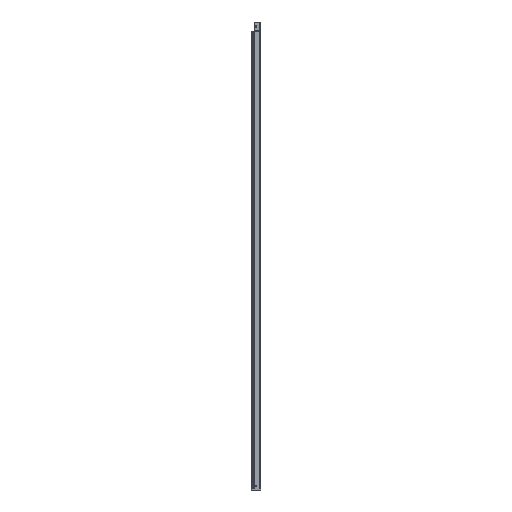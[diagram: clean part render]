
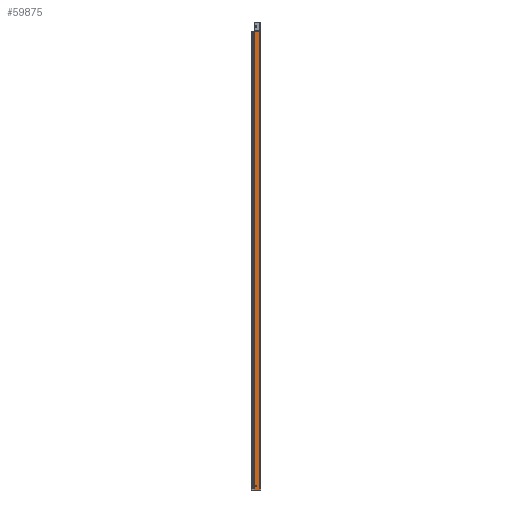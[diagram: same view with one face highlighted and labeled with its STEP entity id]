
A CAD part, left-side view. The second image highlights one B-rep face of the part: STEP entity #59875.
In plain terms, the highlighted planar face has unit normal (-1, 0, 0).
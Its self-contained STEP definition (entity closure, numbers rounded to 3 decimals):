
#1833 = CARTESIAN_POINT ( 'NONE',  ( -75., 4.621, -2941.5 ) ) ;
#11956 = DIRECTION ( 'NONE',  ( 0., 0., 1. ) ) ;
#16864 = EDGE_CURVE ( 'NONE', #309118, #300303, #98281, .T. ) ;
#28698 = CIRCLE ( 'NONE', #270320, 5. ) ;
#30206 = CARTESIAN_POINT ( 'NONE',  ( -75., 29.237, 0. ) ) ;
#30687 = DIRECTION ( 'NONE',  ( 1., 0., 0. ) ) ;
#31830 = CARTESIAN_POINT ( 'NONE',  ( -75., 4.621, 0. ) ) ;
#33485 = CARTESIAN_POINT ( 'NONE',  ( -75., 4.621, -2941.5 ) ) ;
#35612 = VERTEX_POINT ( 'NONE', #48648 ) ;
#43113 = LINE ( 'NONE', #242198, #110474 ) ;
#47310 = DIRECTION ( 'NONE',  ( 0., 0., 1. ) ) ;
#48648 = CARTESIAN_POINT ( 'NONE',  ( -75., 34.307, -2910.25 ) ) ;
#49049 = CARTESIAN_POINT ( 'NONE',  ( -75., 34.307, -2917.75 ) ) ;
#49600 = AXIS2_PLACEMENT_3D ( 'NONE', #201812, #30687, #229749 ) ;
#51446 = EDGE_CURVE ( 'NONE', #208735, #35612, #311953, .T. ) ;
#55402 = EDGE_LOOP ( 'NONE', ( #140528, #201544, #212207, #290935 ) ) ;
#56101 = DIRECTION ( 'NONE',  ( -1., 0., 0. ) ) ;
#58165 = LINE ( 'NONE', #33485, #146344 ) ;
#59875 = ADVANCED_FACE ( 'NONE', ( #133379, #227194 ), #108713, .T. ) ;
#62180 = CARTESIAN_POINT ( 'NONE',  ( -75., 34.307, -2917.75 ) ) ;
#68687 = EDGE_CURVE ( 'NONE', #35612, #307210, #308985, .T. ) ;
#79567 = CARTESIAN_POINT ( 'NONE',  ( -75., 16.929, 0. ) ) ;
#81433 = VERTEX_POINT ( 'NONE', #176945 ) ;
#83614 = CARTESIAN_POINT ( 'NONE',  ( -75., 34.307, -2910.25 ) ) ;
#85600 = CARTESIAN_POINT ( 'NONE',  ( -75., 41.544, -2941.5 ) ) ;
#92028 = ORIENTED_EDGE ( 'NONE', *, *, #68687, .T. ) ;
#98281 = LINE ( 'NONE', #272667, #248202 ) ;
#100386 = DIRECTION ( 'NONE',  ( 1., 0., 0. ) ) ;
#102963 = CARTESIAN_POINT ( 'NONE',  ( -75., 4.621, -2941.5 ) ) ;
#108713 = PLANE ( 'NONE',  #198872 ) ;
#108908 = VECTOR ( 'NONE', #183947, 1000. ) ;
#110474 = VECTOR ( 'NONE', #11956, 1000. ) ;
#121188 = ORIENTED_EDGE ( 'NONE', *, *, #316481, .T. ) ;
#130824 = B_SPLINE_CURVE_WITH_KNOTS ( 'NONE', 3,
 ( #158446, #30206, #79567, #31830 ),
 .UNSPECIFIED., .F., .F.,
 ( 4, 4 ),
 ( 0., 1. ),
 .UNSPECIFIED. ) ;
#133379 = FACE_BOUND ( 'NONE', #148024, .T. ) ;
#133822 = DIRECTION ( 'NONE',  ( 0., -1., 0. ) ) ;
#140528 = ORIENTED_EDGE ( 'NONE', *, *, #161532, .F. ) ;
#146344 = VECTOR ( 'NONE', #133822, 1000. ) ;
#148024 = EDGE_LOOP ( 'NONE', ( #286422, #92028, #121188, #218397 ) ) ;
#158446 = CARTESIAN_POINT ( 'NONE',  ( -75., 41.544, 0. ) ) ;
#161532 = EDGE_CURVE ( 'NONE', #317170, #300303, #130824, .T. ) ;
#165366 = VECTOR ( 'NONE', #225042, 1000. ) ;
#176945 = CARTESIAN_POINT ( 'NONE',  ( -75., 27.693, -2917.75 ) ) ;
#183947 = DIRECTION ( 'NONE',  ( 0., -1., 0. ) ) ;
#185555 = EDGE_CURVE ( 'NONE', #280621, #309118, #58165, .T. ) ;
#198872 = AXIS2_PLACEMENT_3D ( 'NONE', #1833, #56101, #233743 ) ;
#201544 = ORIENTED_EDGE ( 'NONE', *, *, #309700, .F. ) ;
#201812 = CARTESIAN_POINT ( 'NONE',  ( -75., 31., -2914. ) ) ;
#205650 = CARTESIAN_POINT ( 'NONE',  ( -75., 31., -2914. ) ) ;
#207316 = CARTESIAN_POINT ( 'NONE',  ( -75., 27.693, -2910.25 ) ) ;
#208735 = VERTEX_POINT ( 'NONE', #62180 ) ;
#212207 = ORIENTED_EDGE ( 'NONE', *, *, #185555, .T. ) ;
#213687 = EDGE_CURVE ( 'NONE', #81433, #208735, #274400, .T. ) ;
#218397 = ORIENTED_EDGE ( 'NONE', *, *, #213687, .T. ) ;
#225042 = DIRECTION ( 'NONE',  ( 0., 1., 0. ) ) ;
#227194 = FACE_OUTER_BOUND ( 'NONE', #55402, .T. ) ;
#229749 = DIRECTION ( 'NONE',  ( 0., 0., -1. ) ) ;
#233743 = DIRECTION ( 'NONE',  ( 0., -1., 0. ) ) ;
#236762 = CARTESIAN_POINT ( 'NONE',  ( -75., 4.621, 0. ) ) ;
#242198 = CARTESIAN_POINT ( 'NONE',  ( -75., 41.544, -2941.5 ) ) ;
#248202 = VECTOR ( 'NONE', #47310, 1000. ) ;
#250094 = DIRECTION ( 'NONE',  ( 0., 0., -1. ) ) ;
#264314 = CARTESIAN_POINT ( 'NONE',  ( -75., 41.544, 0. ) ) ;
#270320 = AXIS2_PLACEMENT_3D ( 'NONE', #205650, #100386, #250094 ) ;
#272667 = CARTESIAN_POINT ( 'NONE',  ( -75., 4.621, -2941.5 ) ) ;
#274400 = LINE ( 'NONE', #49049, #165366 ) ;
#280621 = VERTEX_POINT ( 'NONE', #85600 ) ;
#286422 = ORIENTED_EDGE ( 'NONE', *, *, #51446, .T. ) ;
#290935 = ORIENTED_EDGE ( 'NONE', *, *, #16864, .T. ) ;
#300303 = VERTEX_POINT ( 'NONE', #236762 ) ;
#307210 = VERTEX_POINT ( 'NONE', #207316 ) ;
#308985 = LINE ( 'NONE', #83614, #108908 ) ;
#309118 = VERTEX_POINT ( 'NONE', #102963 ) ;
#309700 = EDGE_CURVE ( 'NONE', #280621, #317170, #43113, .T. ) ;
#311953 = CIRCLE ( 'NONE', #49600, 5. ) ;
#316481 = EDGE_CURVE ( 'NONE', #307210, #81433, #28698, .T. ) ;
#317170 = VERTEX_POINT ( 'NONE', #264314 ) ;
